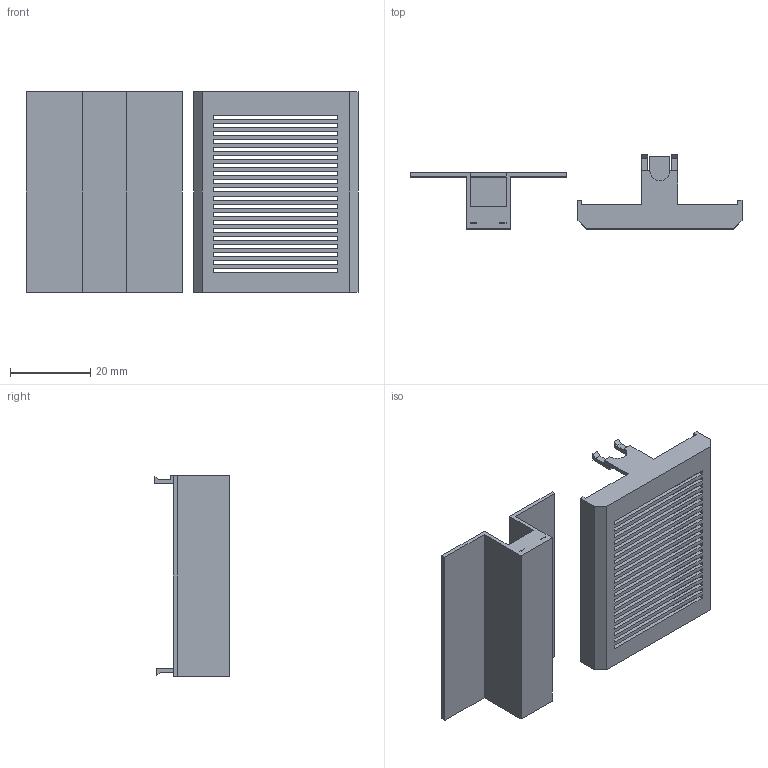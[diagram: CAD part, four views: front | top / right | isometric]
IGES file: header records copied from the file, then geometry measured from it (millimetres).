
Global section: file name: Sensorgehäuse v10,; native system: unknown; preprocessor: unknown; author: valkicom; organization: unknown; date: 20190206.000226; units: millimetre
Bounding box: 83 x 18.57 x 50 mm (x, y, z)
Volume: 6128.2 mm3; surface area: 13718.3 mm2
Topology: 4 solids, 4 shells, 175 faces, 496 edges, 328 vertices
Faces by surface type: bspline 175
